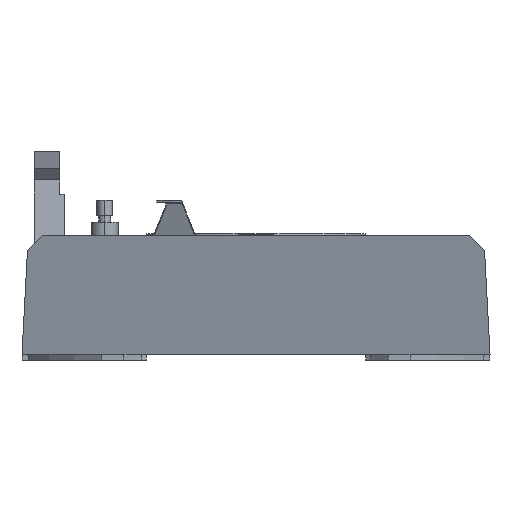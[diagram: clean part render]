
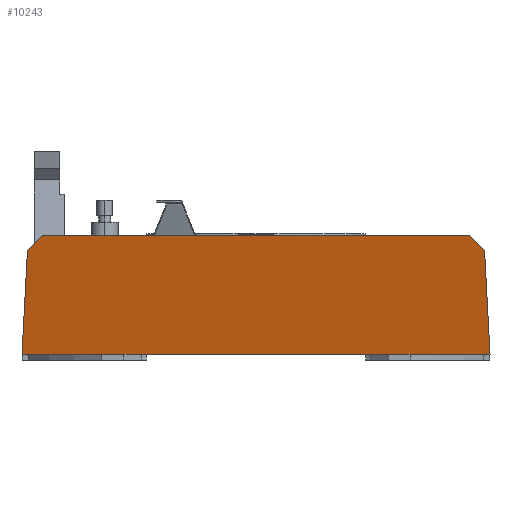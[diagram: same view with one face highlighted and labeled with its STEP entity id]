
A CAD part, left-side view. The second image highlights one B-rep face of the part: STEP entity #10243.
In plain terms, the highlighted planar face has unit normal (-0.966, 0, -0.259).
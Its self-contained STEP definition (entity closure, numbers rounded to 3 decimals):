
#152 = VECTOR ( 'NONE', #2611, 1000. ) ;
#460 = DIRECTION ( 'NONE',  ( 0., 1., 0. ) ) ;
#540 = DIRECTION ( 'NONE',  ( 0.258, 0.051, -0.965 ) ) ;
#892 = CARTESIAN_POINT ( 'NONE',  ( -672.41, -395., 10. ) ) ;
#2590 = EDGE_CURVE ( 'NONE', #14084, #5695, #9049, .T. ) ;
#2596 = EDGE_LOOP ( 'NONE', ( #15482, #14789, #3445, #5148, #6124, #15678 ) ) ;
#2611 = DIRECTION ( 'NONE',  ( 0.181, 0.713, -0.677 ) ) ;
#2885 = DIRECTION ( 'NONE',  ( -0.259, 0., 0.966 ) ) ;
#3440 = CARTESIAN_POINT ( 'NONE',  ( -719.484, 385.793, 185.68 ) ) ;
#3445 = ORIENTED_EDGE ( 'NONE', *, *, #4941, .T. ) ;
#3906 = EDGE_CURVE ( 'NONE', #16024, #14084, #14120, .T. ) ;
#4015 = CARTESIAN_POINT ( 'NONE',  ( -726., 360.165, 210. ) ) ;
#4322 = EDGE_CURVE ( 'NONE', #5695, #9777, #11346, .T. ) ;
#4569 = VECTOR ( 'NONE', #540, 1000. ) ;
#4941 = EDGE_CURVE ( 'NONE', #18193, #16024, #13434, .T. ) ;
#5065 = CARTESIAN_POINT ( 'NONE',  ( -726., 360.165, 210. ) ) ;
#5148 = ORIENTED_EDGE ( 'NONE', *, *, #3906, .T. ) ;
#5505 = EDGE_CURVE ( 'NONE', #6191, #18193, #12229, .T. ) ;
#5665 = CARTESIAN_POINT ( 'NONE',  ( -719.484, -385.793, 185.68 ) ) ;
#5695 = VERTEX_POINT ( 'NONE', #10368 ) ;
#5934 = PLANE ( 'NONE',  #14163 ) ;
#6124 = ORIENTED_EDGE ( 'NONE', *, *, #2590, .T. ) ;
#6191 = VERTEX_POINT ( 'NONE', #5065 ) ;
#7279 = CARTESIAN_POINT ( 'NONE',  ( -672.41, -395., 10. ) ) ;
#7475 = VECTOR ( 'NONE', #10001, 1000. ) ;
#7621 = VECTOR ( 'NONE', #460, 1000. ) ;
#7759 = CARTESIAN_POINT ( 'NONE',  ( -719.484, 385.793, 185.68 ) ) ;
#8996 = CARTESIAN_POINT ( 'NONE',  ( -726., -360.165, 210. ) ) ;
#9049 = LINE ( 'NONE', #7279, #13632 ) ;
#9157 = FACE_OUTER_BOUND ( 'NONE', #2596, .T. ) ;
#9777 = VERTEX_POINT ( 'NONE', #8996 ) ;
#10001 = DIRECTION ( 'NONE',  ( -0.181, 0.713, 0.677 ) ) ;
#10243 = ADVANCED_FACE ( 'NONE', ( #9157 ), #5934, .T. ) ;
#10368 = CARTESIAN_POINT ( 'NONE',  ( -719.484, -385.793, 185.68 ) ) ;
#10607 = CARTESIAN_POINT ( 'NONE',  ( -672.41, -295., 10. ) ) ;
#11346 = LINE ( 'NONE', #5665, #7475 ) ;
#11549 = DIRECTION ( 'NONE',  ( -0.966, 0., -0.259 ) ) ;
#12229 = LINE ( 'NONE', #4015, #152 ) ;
#12367 = CARTESIAN_POINT ( 'NONE',  ( -726., 2236.549, 210. ) ) ;
#13003 = CARTESIAN_POINT ( 'NONE',  ( -803.419, 2236.549, 498.932 ) ) ;
#13434 = LINE ( 'NONE', #7759, #4569 ) ;
#13632 = VECTOR ( 'NONE', #18853, 1000. ) ;
#13980 = EDGE_CURVE ( 'NONE', #9777, #6191, #16494, .T. ) ;
#14084 = VERTEX_POINT ( 'NONE', #892 ) ;
#14120 = LINE ( 'NONE', #10607, #18682 ) ;
#14163 = AXIS2_PLACEMENT_3D ( 'NONE', #13003, #11549, #2885 ) ;
#14313 = CARTESIAN_POINT ( 'NONE',  ( -672.41, 395., 10. ) ) ;
#14789 = ORIENTED_EDGE ( 'NONE', *, *, #5505, .T. ) ;
#15482 = ORIENTED_EDGE ( 'NONE', *, *, #13980, .T. ) ;
#15678 = ORIENTED_EDGE ( 'NONE', *, *, #4322, .T. ) ;
#16024 = VERTEX_POINT ( 'NONE', #14313 ) ;
#16494 = LINE ( 'NONE', #12367, #7621 ) ;
#16539 = DIRECTION ( 'NONE',  ( 0., -1., 0. ) ) ;
#18193 = VERTEX_POINT ( 'NONE', #3440 ) ;
#18682 = VECTOR ( 'NONE', #16539, 1000. ) ;
#18853 = DIRECTION ( 'NONE',  ( -0.258, 0.051, 0.965 ) ) ;
